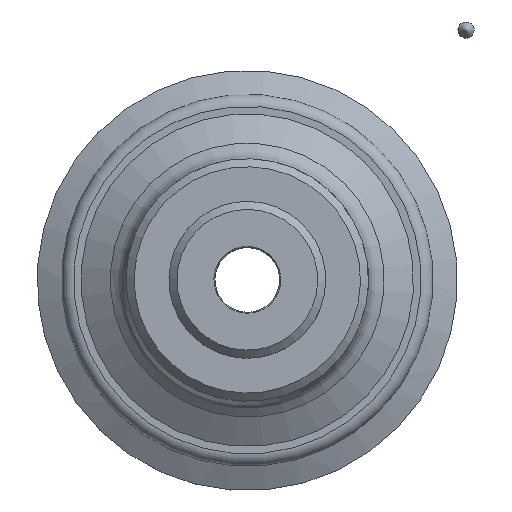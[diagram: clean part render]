
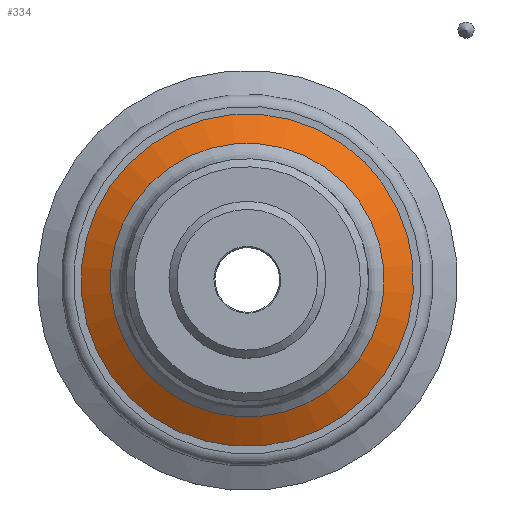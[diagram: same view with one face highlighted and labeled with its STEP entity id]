
A CAD part, top view. The second image highlights one B-rep face of the part: STEP entity #334.
In plain terms, the highlighted conical face has half-angle 59 degrees and reference radius 10.287 mm.
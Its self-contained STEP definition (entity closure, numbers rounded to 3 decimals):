
#334=ADVANCED_FACE('',(#676,#677),#678,.T.);
#676=FACE_OUTER_BOUND('',#1034,.T.);
#677=FACE_BOUND('',#1035,.T.);
#678=CONICAL_SURFACE('',#1036,10.287,1.03);
#1034=EDGE_LOOP('',(#1484));
#1035=EDGE_LOOP('',(#1485));
#1036=AXIS2_PLACEMENT_3D('',#1486,#1487,#1488);
#1484=ORIENTED_EDGE('',*,*,#1889,.F.);
#1485=ORIENTED_EDGE('',*,*,#1891,.T.);
#1486=CARTESIAN_POINT('',(0.0,0.0,13.384));
#1487=DIRECTION('',(-0.0,0.0,-1.0));
#1488=DIRECTION('',(-1.0,0.0,0.0));
#1889=EDGE_CURVE('',#2169,#2169,#2170,.F.);
#1891=EDGE_CURVE('',#2172,#2172,#2173,.T.);
#2169=VERTEX_POINT('',#2738);
#2170=CIRCLE('',#2739,10.287);
#2172=VERTEX_POINT('',#2741);
#2173=CIRCLE('',#2742,8.47);
#2738=CARTESIAN_POINT('',(10.287,0.,13.384));
#2739=AXIS2_PLACEMENT_3D('',#3070,#3071,#3072);
#2741=CARTESIAN_POINT('',(-8.47,0.0,14.476));
#2742=AXIS2_PLACEMENT_3D('',#3073,#3074,#3075);
#3070=CARTESIAN_POINT('',(0.0,0.0,13.384));
#3071=DIRECTION('',(0.0,0.0,1.0));
#3072=DIRECTION('',(1.0,0.0,0.0));
#3073=CARTESIAN_POINT('',(0.0,0.0,14.476));
#3074=DIRECTION('',(0.0,0.0,-1.0));
#3075=DIRECTION('',(-1.0,0.0,0.0));
